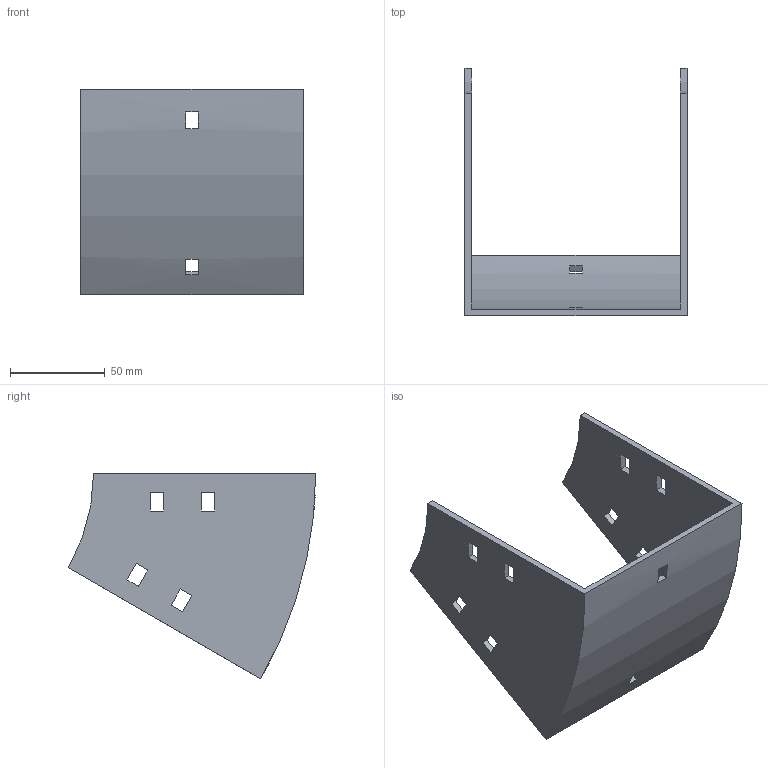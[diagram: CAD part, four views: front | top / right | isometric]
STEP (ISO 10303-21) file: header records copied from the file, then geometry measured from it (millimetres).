
FILE_DESCRIPTION (( 'STEP AP214' ), '1' );
FILE_NAME ('32B1J117.step', '2025-02-21T09:42:50', ( '' ), ( '' ), 'SwSTEP 2.0', 'SolidWorks 2023', '' );
FILE_SCHEMA (( 'AUTOMOTIVE_DESIGN' ));
Length unit declared in the file: millimetre
Products named in the file (1): 32B1J117
Bounding box: 117.5 x 130.9 x 108.75 mm (x, y, z)
Volume: 109686.3 mm3; surface area: 66639 mm2
Topology: 1 solids, 1 shells, 50 faces, 144 edges, 96 vertices
Faces by surface type: plane 46, cylinder 4
Entity records: 1687 total; most frequent: CARTESIAN_POINT 291, ORIENTED_EDGE 288, DIRECTION 262, EDGE_CURVE 144, LINE 128, VECTOR 128, VERTEX_POINT 96, EDGE_LOOP 70
